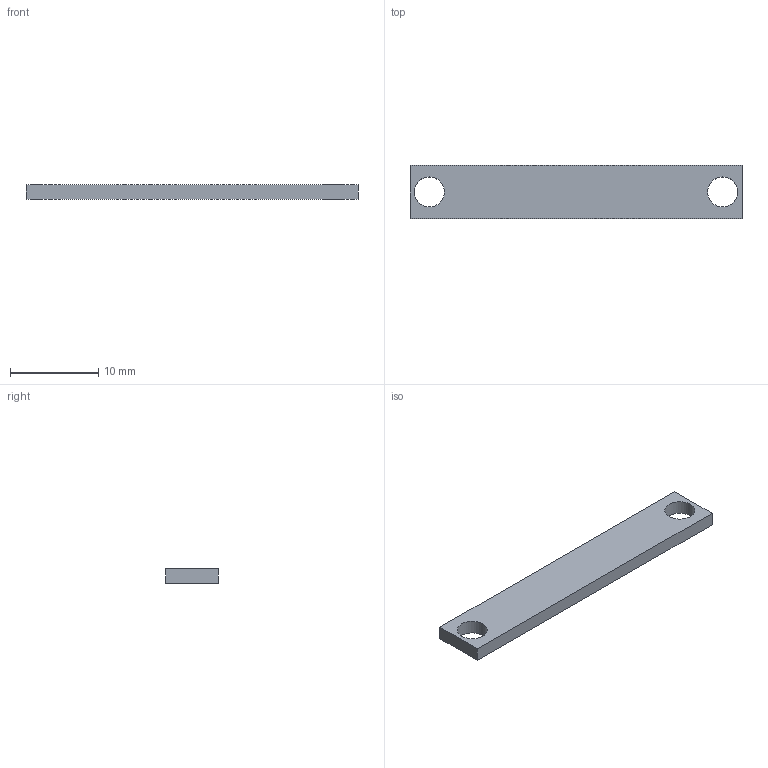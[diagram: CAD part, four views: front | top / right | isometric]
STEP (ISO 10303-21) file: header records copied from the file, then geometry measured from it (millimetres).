
FILE_DESCRIPTION(('FreeCAD Model'),'2;1');
FILE_NAME('Open CASCADE Shape Model','2026-11-20T08:25:38',('FreeCAD'),( 'FreeCAD'),'Open CASCADE STEP processor 7.8','FreeCAD','Unknown');
FILE_SCHEMA(('AUTOMOTIVE_DESIGN { 1 0 10303 214 1 1 1 1 }'));
Length unit declared in the file: millimetre
Products named in the file (1): Open CASCADE STEP translator 7.8 49
Bounding box: 37.6 x 6 x 1.6 mm (x, y, z)
Volume: 331.9 mm3; surface area: 588.6 mm2
Topology: 1 solids, 1 shells, 8 faces, 18 edges, 12 vertices
Faces by surface type: plane 6, cylinder 2
Full cylindrical faces by diameter (mm): 3.4 x2
Entity records: 244 total; most frequent: DIRECTION 40, CARTESIAN_POINT 39, ORIENTED_EDGE 36, EDGE_CURVE 18, LINE 14, VECTOR 14, AXIS2_PLACEMENT_3D 13, FACE_BOUND 12
